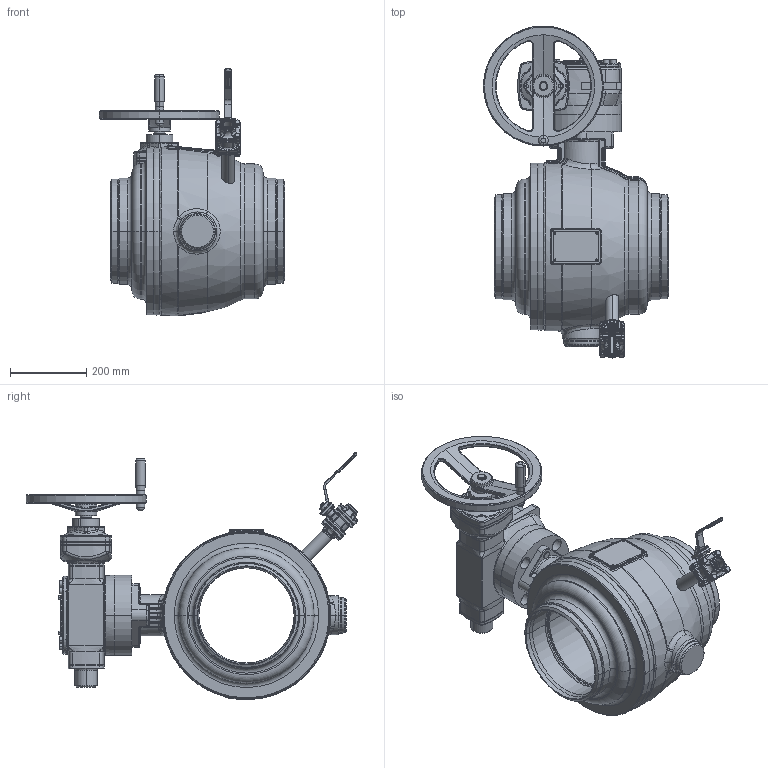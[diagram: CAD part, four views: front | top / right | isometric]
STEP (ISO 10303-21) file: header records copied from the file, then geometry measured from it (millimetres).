
FILE_DESCRIPTION((''),'2;1');
FILE_NAME('ASM0001_ASM','2026-01-28T10:31:56',('schwaba'),('KLINGER'),'CREO PARAMETRIC BY PTC INC, 2023014','CREO PARAMETRIC BY PTC INC, 2023014','');
FILE_SCHEMA(('CONFIG_CONTROL_DESIGN'));
Products named in the file (7): KHSVI_250_FG_FR_WE_F16_ENTL; GS100_3_F16_126-208; AUMA-VE_DISTANZRING-20_05; AHR_315_20_M_BALLENGRIFF; DIN471_20X1_2; GS100_3_126-208_F16------AHR315_ASM; ASM0001_ASM
Assembly tree (6 placements, depth 3):
  ASM0001_ASM
    KHSVI_250_FG_FR_WE_F16_ENTL
    GS100_3_126-208_F16------AHR315_ASM
      GS100_3_F16_126-208
      AUMA-VE_DISTANZRING-20_05
      AHR_315_20_M_BALLENGRIFF
      DIN471_20X1_2
Bounding box: 486 x 871.14 x 650.58 mm (x, y, z)
Volume: 26305288.6 mm3; surface area: 3330729.4 mm2
Topology: 5 solids, 10 shells, 4248 faces, 10043 edges, 5941 vertices
Faces by surface type: plane 1179, cylinder 1066, torus 761, bspline 696, cone 491, sphere 34, revolution 16, extrusion 5
Entity records: 224635 total; most frequent: CARTESIAN_POINT 131771, ORIENTED_EDGE 20022, DIRECTION 18847, EDGE_CURVE 10011, AXIS2_PLACEMENT_3D 7955, VERTEX_POINT 5941, EDGE_LOOP 4516, CIRCLE 4404
